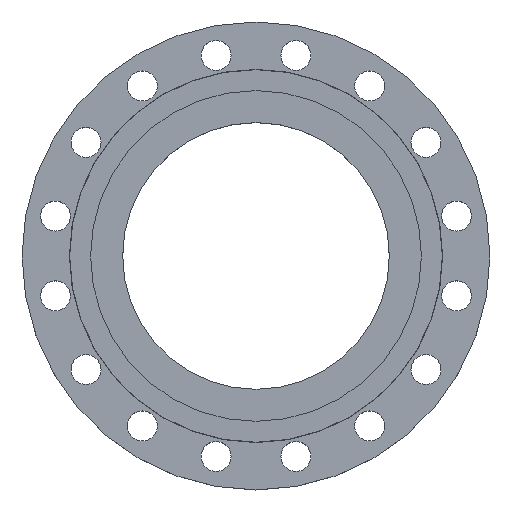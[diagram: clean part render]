
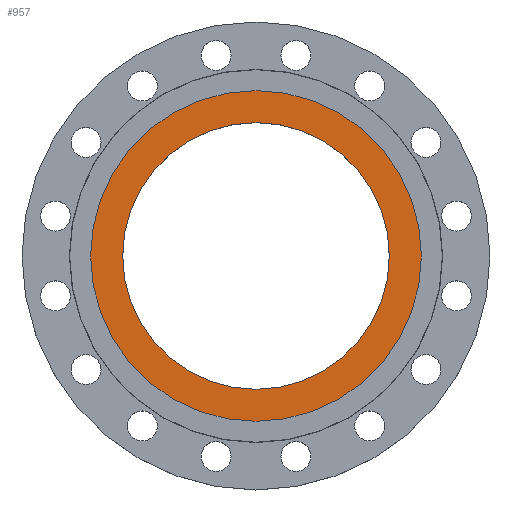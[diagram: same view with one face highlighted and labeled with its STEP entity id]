
A CAD part, top view. The second image highlights one B-rep face of the part: STEP entity #957.
In plain terms, the highlighted planar face has unit normal (0, 0, 1).
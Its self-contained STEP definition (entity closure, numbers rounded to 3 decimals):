
#123 = CARTESIAN_POINT ( 'NONE',  ( 0., 0., -4.5 ) ) ;
#169 = DIRECTION ( 'NONE',  ( 1., 0., 0. ) ) ;
#173 = DIRECTION ( 'NONE',  ( 0., 0., 1. ) ) ;
#175 = CARTESIAN_POINT ( 'NONE',  ( 0., 0., -4.5 ) ) ;
#200 = AXIS2_PLACEMENT_3D ( 'NONE', #1013, #1010, #1009 ) ;
#265 = EDGE_CURVE ( 'NONE', #347, #952, #1629, .T. ) ;
#289 = CIRCLE ( 'NONE', #545, 182. ) ;
#319 = DIRECTION ( 'NONE',  ( 1., 0., 0. ) ) ;
#320 = DIRECTION ( 'NONE',  ( 0., 0., 1. ) ) ;
#321 = CARTESIAN_POINT ( 'NONE',  ( 0., 0., -4.5 ) ) ;
#347 = VERTEX_POINT ( 'NONE', #1677 ) ;
#501 = ORIENTED_EDGE ( 'NONE', *, *, #1417, .F. ) ;
#503 = ORIENTED_EDGE ( 'NONE', *, *, #1634, .F. ) ;
#545 = AXIS2_PLACEMENT_3D ( 'NONE', #600, #597, #591 ) ;
#591 = DIRECTION ( 'NONE',  ( -1., 0., 0. ) ) ;
#597 = DIRECTION ( 'NONE',  ( 0., 0., -1. ) ) ;
#600 = CARTESIAN_POINT ( 'NONE',  ( 0., 0., -4.5 ) ) ;
#605 = ORIENTED_EDGE ( 'NONE', *, *, #1550, .F. ) ;
#608 = ORIENTED_EDGE ( 'NONE', *, *, #265, .F. ) ;
#717 = AXIS2_PLACEMENT_3D ( 'NONE', #321, #320, #319 ) ;
#811 = CARTESIAN_POINT ( 'NONE',  ( -146.752, 0., -4.5 ) ) ;
#826 = CARTESIAN_POINT ( 'NONE',  ( 146.752, 0., -4.5 ) ) ;
#952 = VERTEX_POINT ( 'NONE', #1025 ) ;
#957 = ADVANCED_FACE ( 'NONE', ( #1024, #1019 ), #1014, .T. ) ;
#982 = AXIS2_PLACEMENT_3D ( 'NONE', #123, #1562, #1156 ) ;
#1009 = DIRECTION ( 'NONE',  ( 1., 0., 0. ) ) ;
#1010 = DIRECTION ( 'NONE',  ( 0., 0., 1. ) ) ;
#1013 = CARTESIAN_POINT ( 'NONE',  ( 182., 0., -4.5 ) ) ;
#1014 = PLANE ( 'NONE',  #200 ) ;
#1019 = FACE_OUTER_BOUND ( 'NONE', #1087, .T. ) ;
#1024 = FACE_BOUND ( 'NONE', #1077, .T. ) ;
#1025 = CARTESIAN_POINT ( 'NONE',  ( -182., 0., -4.5 ) ) ;
#1077 = EDGE_LOOP ( 'NONE', ( #605, #503 ) ) ;
#1087 = EDGE_LOOP ( 'NONE', ( #501, #608 ) ) ;
#1090 = VERTEX_POINT ( 'NONE', #826 ) ;
#1122 = VERTEX_POINT ( 'NONE', #811 ) ;
#1156 = DIRECTION ( 'NONE',  ( -1., 0., 0. ) ) ;
#1395 = CIRCLE ( 'NONE', #1602, 146.752 ) ;
#1414 = CIRCLE ( 'NONE', #717, 146.752 ) ;
#1417 = EDGE_CURVE ( 'NONE', #952, #347, #289, .T. ) ;
#1550 = EDGE_CURVE ( 'NONE', #1090, #1122, #1414, .T. ) ;
#1562 = DIRECTION ( 'NONE',  ( 0., 0., -1. ) ) ;
#1602 = AXIS2_PLACEMENT_3D ( 'NONE', #175, #173, #169 ) ;
#1629 = CIRCLE ( 'NONE', #982, 182. ) ;
#1634 = EDGE_CURVE ( 'NONE', #1122, #1090, #1395, .T. ) ;
#1677 = CARTESIAN_POINT ( 'NONE',  ( 182., 0., -4.5 ) ) ;
